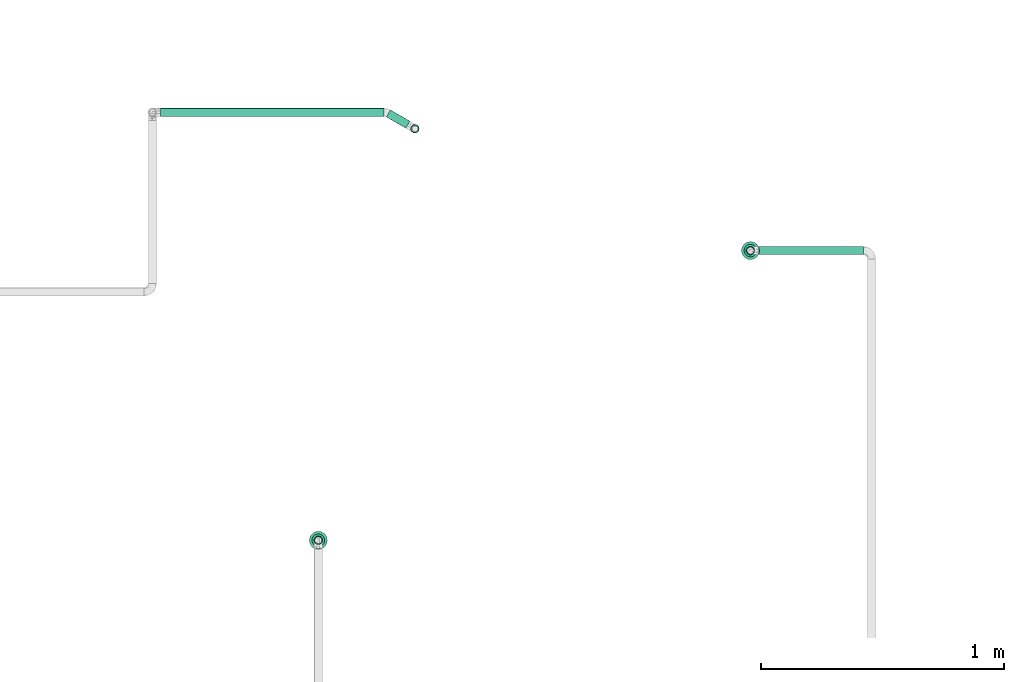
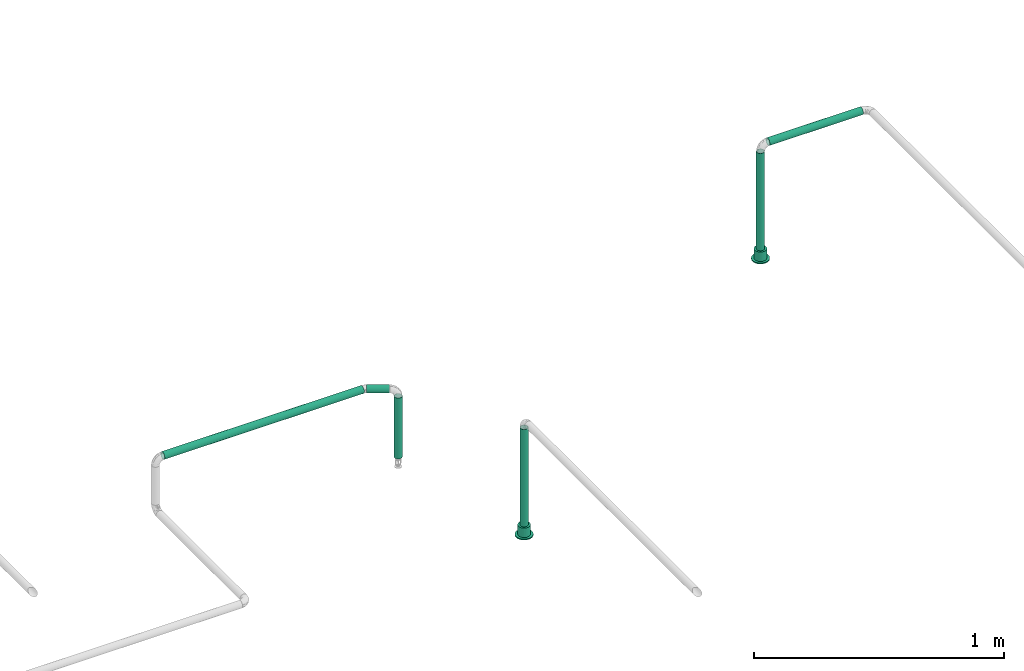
# One storey, part 23 of 95: 6 flow segments, 2 flow terminals.
"""IFC2X3 building model written with IfcOpenShell, lengths in millimetres."""

from ifc_helpers import new_model, entity, si_unit, converted_unit, derived_unit, direction, frame, origin_with_axes, origin_2d_with_axis, place, context, subcontext, project, spatial, hollow_circle, extrude, open_shell, surface_model, source, transform, mapped, type_object, element, save


model = new_model("IFC2X3")

# Units and contexts
model_context = context("Model", 3, precision=0.01, world=frame((0.0, 4.29681676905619e-09, 0.0)), true_north=direction((4.01073788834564e-13, 1.0)))
plan_context = context("Plan", 3, precision=0.01, world=frame((0.0, 4.29681676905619e-09, 0.0)), true_north=direction((4.01073788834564e-13, 1.0)))
body_context = subcontext(model_context, "Body", "Model", "MODEL_VIEW")
ifc_project = project(units=[converted_unit("PLANEANGLEUNIT", "DEGREE", entity("IfcPositiveLengthMeasure", 0.0174532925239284), si_unit("PLANEANGLEUNIT", "RADIAN"), dimensions=[0, 0, 0, 0, 0, 0, 0]), si_unit("AREAUNIT", "SQUARE_METRE"), si_unit("LENGTHUNIT", "METRE", prefix="MILLI"), si_unit("MASSUNIT", "GRAM", prefix="KILO"), si_unit("POWERUNIT", "WATT"), si_unit("PRESSUREUNIT", "PASCAL"), si_unit("FORCEUNIT", "NEWTON", prefix="KILO"), si_unit("ELECTRICVOLTAGEUNIT", "VOLT"), si_unit("ELECTRICCURRENTUNIT", "AMPERE"), si_unit("THERMODYNAMICTEMPERATUREUNIT", "DEGREE_CELSIUS"), si_unit("TIMEUNIT", "SECOND"), si_unit("VOLUMEUNIT", "CUBIC_METRE"), derived_unit("LINEARVELOCITYUNIT", [(si_unit("LENGTHUNIT", "METRE"), 1), (si_unit("TIMEUNIT", "SECOND"), -1)]), derived_unit("VOLUMETRICFLOWRATEUNIT", [(si_unit("VOLUMEUNIT", "CUBIC_METRE"), 1), (si_unit("TIMEUNIT", "SECOND"), -1)]), derived_unit("THERMALTRANSMITTANCEUNIT", [(si_unit("POWERUNIT", "WATT"), 1), (si_unit("THERMODYNAMICTEMPERATUREUNIT", "KELVIN"), -1), (si_unit("AREAUNIT", "SQUARE_METRE"), -1)]), derived_unit("SOUNDPRESSUREUNIT", [(si_unit("PRESSUREUNIT", "PASCAL"), 1)])], contexts=[model_context, plan_context])

# Site, building, storey
site_placement = place(None, frame((0.0, -4.29681676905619e-09, 0.0), z_axis=(0.0, 0.0, 1.0), x_axis=(1.0, 0.0, 0.0)))
site = spatial("IfcSite", under=ifc_project, at=site_placement, CompositionType="ELEMENT")
building_placement = place(site_placement, frame((0.0, 4.29681676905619e-09, 0.0), z_axis=(0.0, 0.0, 1.0), x_axis=(1.0, 0.0, 0.0)))
building = spatial("IfcBuilding", under=site, at=building_placement, Name="mc-building", CompositionType="ELEMENT")
storey_placement = place(building_placement, frame((0.0, 0.0, 210900.0), z_axis=(0.0, 0.0, 1.0), x_axis=(1.0, 0.0, 0.0)))
storey = spatial("IfcBuildingStorey", under=building, at=storey_placement, Name="Nivå F", CompositionType="ELEMENT", Elevation=210900.0)

# Flow segments
pipe_segment_type = type_object("IfcPipeSegmentType", Name="Stålrør normaltykke", PredefinedType="RIGIDSEGMENT")
shared_shape_1 = source(origin_with_axes(), body_context, "Body", "SweptSolid", [
    extrude(hollow_circle(Radius=16.9, WallThickness=2.0, at=origin_2d_with_axis()), frame((0.0, 0.0, 0.0), z_axis=(1.0, 0.0, 0.0), x_axis=(0.0, 1.0, 0.0)), (0.0, 0.0, 1.0), 296.9),
])
flow_segment_1_placement = place(storey_placement, frame((525498.46365, 456100.21455, 3266.20000000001), z_axis=(-1.05879118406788e-22, 0.999999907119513, -0.00043099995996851), x_axis=(-0.000406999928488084, -0.000430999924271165, -0.999999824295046)))
element("IfcFlowSegment", 1, at=flow_segment_1_placement, inside=storey, type_object=pipe_segment_type, Name="Stålrør normaltykke", context=body_context, shape_type="MappedRepresentation", body=[
    mapped(shared_shape_1, transform((0.0, 0.0, 0.0), scale=1.0)),
])
shared_shape_2 = source(origin_with_axes(), body_context, "Body", "SweptSolid", [
    extrude(hollow_circle(Radius=16.9, WallThickness=2.0, at=origin_2d_with_axis()), frame((0.0, 0.0, 0.0), z_axis=(1.0, 0.0, 0.0), x_axis=(0.0, 1.0, 0.0)), (0.0, 0.0, 1.0), 432.0),
])
flow_segment_2_placement = place(storey_placement, frame((527347.63724, 455598.0, 4315.0), z_axis=(0.0, 0.0, 1.0), x_axis=(-1.0, 0.0, 0.0)))
element("IfcFlowSegment", 2, at=flow_segment_2_placement, inside=storey, type_object=pipe_segment_type, Name="Stålrør normaltykke", context=body_context, shape_type="MappedRepresentation", body=[
    mapped(shared_shape_2, transform((0.0, 0.0, 0.0), scale=1.0)),
])
shared_shape_3 = source(origin_with_axes(), body_context, "Body", "SweptSolid", [
    extrude(hollow_circle(Radius=16.9, WallThickness=2.0, at=origin_2d_with_axis()), frame((0.0, 0.0, 0.0), z_axis=(1.0, 0.0, 0.0), x_axis=(0.0, 1.0, 0.0)), (0.0, 0.0, 1.0), 511.9),
])
for number, where, z_axis, x_axis in (
    (3, (526881.79186, 455598.00132, 4281.20000000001), (0.0, -0.9999999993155, -3.69999999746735e-05), (0.0, 3.69999999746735e-05, -0.9999999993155)),
    (4, (525100.25962, 454403.32191, 4281.20000000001), (1.0, 0.0, 0.0), (0.0, 0.0, -1.0)),
):
    element("IfcFlowSegment", number, at=place(storey_placement, frame(where, z_axis=z_axis, x_axis=x_axis)), inside=storey, type_object=pipe_segment_type, Name="Stålrør normaltykke", context=body_context, shape_type="MappedRepresentation", body=[
        mapped(shared_shape_3, transform((0.0, 0.0, 0.0), scale=1.0)),
    ])
shared_shape_4 = source(origin_with_axes(), body_context, "Body", "SweptSolid", [
    extrude(hollow_circle(Radius=16.9, WallThickness=2.0, at=origin_2d_with_axis()), frame((0.0, 0.0, 0.0), z_axis=(1.0, 0.0, 0.0), x_axis=(0.0, 1.0, 0.0)), (0.0, 0.0, 1.0), 922.1),
])
flow_segment_3_placement = place(storey_placement, frame((524449.77009, 456168.04949, 3300.0), z_axis=(0.0, 0.0, 1.0), x_axis=(1.0, 0.0, 0.0)))
element("IfcFlowSegment", 5, at=flow_segment_3_placement, inside=storey, type_object=pipe_segment_type, Name="Stålrør normaltykke", context=body_context, shape_type="MappedRepresentation", body=[
    mapped(shared_shape_4, transform((0.0, 0.0, 0.0), scale=1.0)),
])
shared_shape_5 = source(origin_with_axes(), body_context, "Body", "SweptSolid", [
    extrude(hollow_circle(Radius=16.9, WallThickness=2.0, at=origin_2d_with_axis()), frame((0.0, 0.0, 0.0), z_axis=(1.0, 0.0, 0.0), x_axis=(0.0, 1.0, 0.0)), (0.0, 0.0, 1.0), 92.8),
])
flow_segment_4_placement = place(storey_placement, frame((525388.81341, 456163.52114, 3300.0), z_axis=(0.0, 0.0, 1.0), x_axis=(0.866025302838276, -0.500000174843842, 0.0)))
element("IfcFlowSegment", 6, at=flow_segment_4_placement, inside=storey, type_object=pipe_segment_type, Name="Stålrør normaltykke", context=body_context, shape_type="MappedRepresentation", body=[
    mapped(shared_shape_5, transform((0.0, 0.0, 0.0), scale=1.0)),
])

# Flow terminals
fire_suppression_terminal_type = type_object("IfcFireSuppressionTerminalType", Name="68DGR-STD-SKJULT I HIMLING", PredefinedType="NOTDEFINED")
shared_shape_6 = source(origin_with_axes(), body_context, "Body", "SurfaceModel", [
    surface_model("IfcShellBasedSurfaceModel", [(6.72929, -25.11407, 0.0), (13.0, -22.51666, 0.0), (18.38478, -18.38478, 0.0), (-25.11407, -6.72929, 0.0), (25.11407, -6.72929, 0.0), (26.0, 0.0, 0.0), (22.51666, -13.0, 0.0), (-6.72929, -25.11407, 0.0), (-13.0, -22.51666, 0.0), (0.0, -26.0, 0.0), (-18.38478, -18.38478, 0.0), (-22.51666, -13.0, 0.0), (25.11407, 6.72929, 0.0), (22.51666, 13.0, 0.0), (18.38478, 18.38478, 0.0), (13.0, 22.51666, 0.0), (6.72929, 25.11407, 0.0), (0.0, 26.0, 0.0), (-18.38478, 18.38478, 0.0), (-26.0, 0.0, 0.0), (-22.51666, 13.0, 0.0), (-25.11407, 6.72929, 0.0), (-6.72929, 25.11407, 0.0), (-13.0, 22.51666, 0.0), (0.0, 26.0, -46.0), (6.72929, 25.11407, -46.0), (13.0, 22.51666, -46.0), (-25.11407, -6.72929, -46.0), (18.38478, 18.38478, -46.0), (22.51666, 13.0, -46.0), (25.11407, 6.72929, -46.0), (-18.38478, 18.38478, -46.0), (-6.72929, 25.11407, -46.0), (-13.0, 22.51666, -46.0), (-22.51666, 13.0, -46.0), (-26.0, 0.0, -46.0), (-25.11407, 6.72929, -46.0), (25.11407, -6.72929, -46.0), (18.38478, -18.38478, -46.0), (22.51666, -13.0, -46.0), (13.0, -22.51666, -46.0), (6.72929, -25.11407, -46.0), (-18.38478, -18.38478, -46.0), (-22.51666, -13.0, -46.0), (-13.0, -22.51666, -46.0), (-6.72929, -25.11407, -46.0), (0.0, -26.0, -46.0), (26.0, 0.0, -46.0), (35.73926, -9.57631, 5.0), (9.57631, -35.73926, 5.0), (18.5, -32.04294, 5.0), (32.04294, -18.5, 5.0), (26.16295, -26.16295, 5.0), (-18.5, -32.04294, 5.0), (-26.16295, -26.16295, 5.0), (37.0, 0.0, 5.0), (0.0, -37.0, 5.0), (-9.57631, -35.73926, 5.0), (-35.73926, -9.57631, 5.0), (-32.04294, -18.5, 5.0), (35.73926, 9.57631, 5.0), (0.0, 37.0, 5.0), (32.04294, 18.5, 5.0), (18.5, 32.04294, 5.0), (26.16295, 26.16295, 5.0), (9.57631, 35.73926, 5.0), (-9.57631, 35.73926, 5.0), (-35.73926, 9.57631, 5.0), (-26.16295, 26.16295, 5.0), (-32.04294, 18.5, 5.0), (-37.0, 0.0, 5.0), (-18.5, 32.04294, 5.0), (0.0, 37.0, 0.0), (9.57631, 35.73926, 0.0), (18.5, 32.04294, 0.0), (32.04294, 18.5, 0.0), (-26.16295, 26.16295, 0.0), (26.16295, 26.16295, 0.0), (35.73926, -9.57631, 0.0), (-9.57631, 35.73926, 0.0), (-18.5, 32.04294, 0.0), (-35.73926, 9.57631, 0.0), (-32.04294, 18.5, 0.0), (-26.16295, -26.16295, 0.0), (-37.0, 0.0, 0.0), (35.73926, 9.57631, 0.0), (37.0, 0.0, 0.0), (9.57631, -35.73926, 0.0), (18.5, -32.04294, 0.0), (32.04294, -18.5, 0.0), (26.16295, -26.16295, 0.0), (-18.5, -32.04294, 0.0), (-35.73926, -9.57631, 0.0), (-32.04294, -18.5, 0.0), (0.0, -37.0, 0.0), (-9.57631, -35.73926, 0.0)], [open_shell([[[0, 1, 2]], [[3, 0, 2]], [[4, 5, 2]], [[4, 2, 6]], [[3, 2, 5]], [[7, 3, 8]], [[7, 9, 0]], [[10, 3, 11]], [[3, 10, 8]], [[0, 3, 7]], [[5, 12, 3]], [[12, 13, 14]], [[12, 14, 15]], [[15, 16, 17]], [[17, 3, 15]], [[17, 18, 3]], [[19, 20, 21]], [[19, 3, 20]], [[18, 22, 23]], [[3, 18, 20]], [[17, 22, 18]], [[12, 15, 3]], [[24, 25, 26]], [[27, 24, 26]], [[28, 29, 30]], [[28, 30, 26]], [[27, 31, 24]], [[32, 31, 33]], [[32, 24, 31]], [[34, 35, 36]], [[35, 34, 31]], [[31, 27, 35]], [[27, 26, 30]], [[30, 37, 38]], [[38, 37, 39]], [[38, 40, 41]], [[38, 27, 30]], [[41, 27, 38]], [[27, 42, 43]], [[42, 27, 44]], [[27, 45, 44]], [[27, 41, 45]], [[41, 46, 45]], [[37, 30, 47]], [[3, 27, 43]], [[42, 11, 43]], [[8, 44, 45]], [[42, 44, 10]], [[7, 45, 46]], [[19, 35, 3]], [[35, 27, 3]], [[43, 11, 3]], [[42, 10, 11]], [[8, 10, 44]], [[45, 7, 8]], [[46, 9, 7]], [[0, 41, 40]], [[38, 1, 40]], [[6, 39, 37]], [[38, 39, 2]], [[4, 37, 47]], [[41, 0, 9]], [[40, 1, 0]], [[38, 2, 1]], [[39, 6, 2]], [[4, 6, 37]], [[47, 5, 4]], [[41, 9, 46]], [[30, 12, 47]], [[29, 13, 30]], [[25, 24, 16]], [[28, 14, 29]], [[30, 13, 12]], [[12, 5, 47]], [[15, 26, 16]], [[26, 15, 14]], [[26, 25, 16]], [[14, 13, 29]], [[14, 28, 26]], [[24, 17, 16]], [[22, 32, 33]], [[31, 23, 33]], [[20, 34, 36]], [[31, 34, 18]], [[21, 36, 35]], [[32, 22, 17]], [[33, 23, 22]], [[31, 18, 23]], [[34, 20, 18]], [[21, 20, 36]], [[35, 19, 21]], [[32, 17, 24]], [[48, 49, 50]], [[51, 50, 52]], [[49, 48, 53]], [[48, 50, 51]], [[54, 48, 55]], [[56, 53, 57]], [[56, 49, 53]], [[54, 58, 59]], [[54, 53, 48]], [[58, 54, 55]], [[55, 60, 58]], [[61, 60, 62]], [[63, 62, 64]], [[63, 65, 61]], [[63, 61, 62]], [[60, 61, 66]], [[67, 68, 69]], [[70, 58, 67]], [[68, 66, 71]], [[67, 60, 68]], [[60, 66, 68]], [[67, 58, 60]], [[72, 73, 74]], [[72, 74, 75]], [[72, 75, 76]], [[75, 74, 77]], [[78, 76, 75]], [[79, 76, 80]], [[79, 72, 76]], [[76, 81, 82]], [[76, 78, 81]], [[81, 83, 84]], [[85, 86, 75]], [[81, 78, 87]], [[88, 78, 89]], [[88, 87, 78]], [[88, 89, 90]], [[91, 81, 87]], [[92, 83, 93]], [[84, 83, 92]], [[91, 94, 95]], [[83, 81, 91]], [[94, 91, 87]], [[78, 75, 86]], [[92, 58, 84]], [[93, 59, 92]], [[53, 83, 91]], [[93, 83, 54]], [[57, 91, 95]], [[92, 59, 58]], [[58, 70, 84]], [[57, 53, 91]], [[54, 83, 53]], [[54, 59, 93]], [[56, 57, 95]], [[95, 94, 56]], [[87, 49, 94]], [[88, 50, 87]], [[51, 90, 89]], [[88, 90, 52]], [[48, 89, 78]], [[88, 52, 50]], [[50, 49, 87]], [[55, 48, 78]], [[51, 89, 48]], [[51, 52, 90]], [[86, 55, 78]], [[94, 49, 56]], [[85, 60, 86]], [[75, 62, 85]], [[63, 77, 74]], [[75, 77, 64]], [[65, 74, 73]], [[85, 62, 60]], [[60, 55, 86]], [[65, 63, 74]], [[64, 77, 63]], [[64, 62, 75]], [[61, 65, 73]], [[73, 72, 61]], [[79, 66, 72]], [[80, 71, 79]], [[69, 76, 82]], [[80, 76, 68]], [[67, 82, 81]], [[80, 68, 71]], [[71, 66, 79]], [[70, 67, 81]], [[69, 82, 67]], [[69, 68, 76]], [[84, 70, 81]], [[72, 66, 61]]])]),
])
for number, where, z_axis, x_axis, name in (
    (7, (526881.79186, 455598.02191, 3759.89999999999), (0.0, 0.0, -1.0), (-1.0, 0.0, 0.0), "68DGR-STD-SKJULT I HIMLING"),
    (8, (525100.25962, 454403.32191, 3759.89999999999), (0.0, 0.0, -1.0), (-1.0, 0.0, 0.0), "68DGR-STD-SKJULT I HIMLING"),
):
    element("IfcFlowTerminal", number, at=place(storey_placement, frame(where, z_axis=z_axis, x_axis=x_axis)), inside=storey, type_object=fire_suppression_terminal_type, Name=name, context=body_context, shape_type="MappedRepresentation", body=[
        mapped(shared_shape_6, transform((0.0, 0.0, 0.0), scale=1.0)),
    ])

save(model, "model.ifc")
